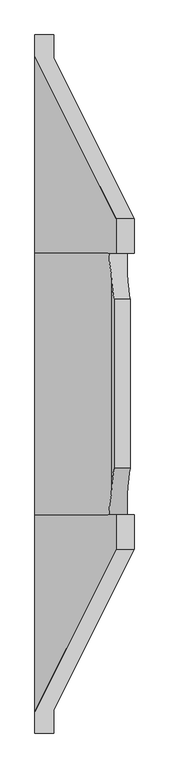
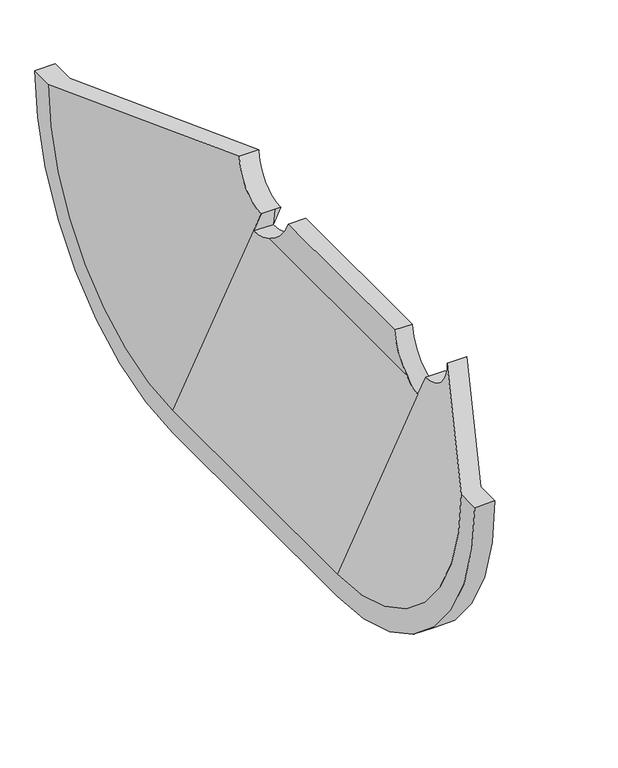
"""IFC4 building model written with IfcOpenShell, lengths in millimetres: proxy geometry, RiprapB4.sat."""

from ifc_helpers import new_model, si_unit, frame, origin, place, context, project, spatial, polyline, circle_curve, ellipse_curve, source, transform, mapped, element, save
from ifc_brep_helpers import plane_surface, cylinder_surface, revolved_surface, advanced_brep


def generic_models_2f90a7fc(model_context):
    return source(origin(), model_context, "Body", "AdvancedBrep", [
        advanced_brep(
        [(-1207.008, 4832.8128612, -914.4), (-1394.473971, 7467.6, -2788.947942), (-2416.8042503, 7467.6, -2788.947942), (-2287.5909367, 6295.1271858, -2530.5213149), (-2125.9691693, 4832.8128612, -914.4), (-1313.6943607, 7467.5999997, -1981.2), (-2012.9302793, 7467.5999997, -1981.2), (-2287.5909367, -6295.1271858, -2530.5213149), (-2416.8042503, -7467.6, -2788.947942), (-1394.473971, -7467.6, -2788.947942), (-1207.008, -4832.8128612, -914.4), (-2125.9691693, -4832.8128612, -914.4), (-2012.9302793, -7467.5999997, -1981.2), (-1313.6943607, -7467.5999997, -1981.2), (-6662.928, 7467.6, -11281.1954414), (-6662.928, -7467.6, -11281.1954414), (-990.6, 7467.6, -1981.2), (-990.6, 9448.8, 0.0), (-2012.9302793, 9448.8, 0.0), (-6662.928, 18748.7954414, 0.0), (-5596.128, 7467.6, -12500.3954414), (-6662.928, 7467.6, -12500.3954414), (-6662.928, 19967.9954414, 0.0), (-5596.128, 19967.9954414, 0.0), (-5596.128, 7467.6, -11192.256), (-5596.128, 18659.856, 0.0), (-6662.928, -7467.6, -12500.3954414), (-5596.128, -7467.6, -12500.3954414), (-5596.128, -19967.9954414, 0.0), (-6662.928, -19967.9954414, 0.0), (-6662.928, -18748.7954414, 0.0), (-2012.9302793, -9448.8, 0.0), (-990.6, -7467.6, -1981.2), (-990.6, -9448.8, 0.0), (-5596.128, -7467.6, -11192.256), (-5596.128, -18659.856, 0.0)],
        [
            (0, 1, ellipse_curve(frame((-1115.562548, 7467.5999991, -3e-07), z_axis=(0.9950366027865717, 0.0, -0.09950959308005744), x_axis=(-0.09950959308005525, 0.0, -0.9950366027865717)), 2802.8596474, 2788.9479417)),
            (1, 2),
            (2, 3, ellipse_curve(frame((-1022.3302795, 7467.5999991, -3e-07), z_axis=(-0.8944271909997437, 0.0, 0.4472135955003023), x_axis=(-0.4472135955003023, 0.0, -0.8944271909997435)), 3118.1385916, 2788.9479417)),
            (3, 4, ellipse_curve(frame((-2034.5237173, 7467.5999991, -3e-07), z_axis=(-0.9950366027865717, 0.0, 0.09950959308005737), x_axis=(-0.09950959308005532, 0.0, -0.9950366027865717)), 2802.8596474, 2788.9479417)),
            (4, 0),
            (1, 5),
            (5, 6),
            (6, 2),
            (7, 8, ellipse_curve(frame((-1022.3302795, -7467.5999991, -3e-07), z_axis=(-0.8944271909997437, 0.0, 0.4472135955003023), x_axis=(-0.4472135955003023, 0.0, -0.8944271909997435)), 3118.1385916, 2788.9479417)),
            (8, 9),
            (9, 10, ellipse_curve(frame((-1115.562548, -7467.5999991, -3e-07), z_axis=(0.9950366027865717, 0.0, -0.09950959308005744), x_axis=(-0.09950959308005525, 0.0, -0.9950366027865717)), 2802.8596474, 2788.9479417)),
            (10, 11),
            (11, 7, ellipse_curve(frame((-2034.5237173, -7467.5999991, -3e-07), z_axis=(-0.9950366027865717, 0.0, 0.09950959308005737), x_axis=(-0.09950959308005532, 0.0, -0.9950366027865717)), 2802.8596474, 2788.9479417)),
            (8, 12),
            (12, 13),
            (13, 9),
            (2, 14),
            (14, 15),
            (15, 8),
            (7, 3),
            (11, 4),
            (10, 0),
            (5, 16),
            (16, 17, circle_curve(frame((-990.6, 7467.6, 0.0), z_axis=(1.0, 0.0, 0.0), x_axis=(0.0, 0.0, -1.0)), 1981.2)),
            (17, 18),
            (18, 6, circle_curve(frame((-2012.9302793, 7467.6, 0.0), z_axis=(-1.0, 0.0, 0.0), x_axis=(0.0, 0.0, -1.0)), 1981.2)),
            (18, 19),
            (19, 14, circle_curve(frame((-6662.928, 7467.6, 0.0), z_axis=(-1.0, 0.0, 0.0), x_axis=(0.0, 0.0, -1.0)), 11281.1954414)),
            (20, 21),
            (21, 22, circle_curve(frame((-6662.928, 7467.6, 0.0), z_axis=(1.0, 0.0, 0.0), x_axis=(0.0, 0.0, -1.0)), 12500.3954414)),
            (22, 23),
            (23, 20, circle_curve(frame((-5596.128, 7467.6, 0.0), z_axis=(-1.0, 0.0, 0.0), x_axis=(0.0, 0.0, -1.0)), 12500.3954414)),
            (16, 1),
            (1, 24),
            (24, 25, circle_curve(frame((-5596.128, 7467.6, 0.0), z_axis=(1.0, 0.0, 0.0), x_axis=(0.0, 0.0, -1.0)), 11192.256)),
            (25, 17),
            (25, 23),
            (22, 19),
            (26, 27),
            (27, 28, circle_curve(frame((-5596.128, -7467.6, 0.0), z_axis=(-1.0, 0.0, 0.0), x_axis=(0.0, 0.0, -1.0)), 12500.3954414)),
            (28, 29),
            (29, 26, circle_curve(frame((-6662.928, -7467.6, 0.0), z_axis=(1.0, 0.0, 0.0), x_axis=(0.0, 0.0, -1.0)), 12500.3954414)),
            (15, 30, circle_curve(frame((-6662.928, -7467.6, 0.0), z_axis=(-1.0, 0.0, 0.0), x_axis=(0.0, 0.0, -1.0)), 11281.1954414)),
            (30, 31),
            (31, 12, circle_curve(frame((-2012.9302793, -7467.6, 0.0), z_axis=(1.0, 0.0, 0.0), x_axis=(0.0, 0.0, -1.0)), 1981.2)),
            (32, 13),
            (31, 33),
            (33, 32, circle_curve(frame((-990.6, -7467.6, 0.0), z_axis=(1.0, 0.0, 0.0), x_axis=(0.0, 0.0, -1.0)), 1981.2)),
            (34, 9),
            (9, 32),
            (33, 35),
            (35, 34, circle_curve(frame((-5596.128, -7467.6, 0.0), z_axis=(1.0, 0.0, 0.0), x_axis=(0.0, 0.0, -1.0)), 11192.256)),
            (30, 29),
            (28, 35),
            (26, 21),
            (20, 27),
            (24, 34),
            (1, 9),
        ],
        [
            revolved_surface(polyline([(-2416.804250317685, 4678.652057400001, -1.1854042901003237e-06), (372.14369131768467, 4678.652057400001, -1.1854042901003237e-06)]), (0.0, 7467.5999991, -3e-07), (-1.0, 0.0, 0.0)),
            plane_surface(frame((0.0, 7467.5999991, -3e-07), z_axis=(0.0, -1.0, -3.1746898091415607e-10), x_axis=(0.0, 3.1746898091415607e-10, -1.0))),
            revolved_surface(polyline([(-2416.804250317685, -7467.599999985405, -2788.947942), (372.14369131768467, -7467.599999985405, -2788.947942)]), (0.0, -7467.5999991, -3e-07), (-1.0, 0.0, 0.0)),
            plane_surface(frame((0.0, -7467.6, -2788.947942), z_axis=(0.0, 1.0, -3.1746898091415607e-10), x_axis=(0.0, 3.1746898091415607e-10, 1.0))),
            plane_surface(frame((-6662.928, 0.0, -11281.1954414), z_axis=(-0.8944271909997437, 0.0, 0.4472135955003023), x_axis=(0.4472135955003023, 0.0, 0.8944271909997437))),
            plane_surface(frame((-2287.5909367, 0.0, -2530.5213149), z_axis=(-0.9950366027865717, 0.0, 0.09950959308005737), x_axis=(0.09950959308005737, 0.0, 0.9950366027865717))),
            plane_surface(frame((-2125.9691693, 0.0, -914.4), z_axis=(0.0, 0.0, 1.0), x_axis=(1.0, 0.0, 0.0))),
            revolved_surface(polyline([(-990.6, 7467.6, -1981.2), (-2012.9302793, 7467.6, -1981.2)]), (-1501.7651397, 7467.6, 0.0), (1.0, 0.0, 0.0)),
            revolved_surface(polyline([(-6662.928, 7467.6, -11281.1954414), (-2012.9302793, 7467.6, -1981.1999999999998)]), (-1022.3302793, 7467.6, 0.0), (-1.0, 0.0, 0.0)),
            cylinder_surface(frame((-6129.528, 7467.6, 0.0), z_axis=(1.0, 0.0, 0.0), x_axis=(0.0, 0.0, -1.0)), 12500.3954414),
            revolved_surface(polyline([(-990.6, 7467.6, -1981.2), (-5596.128, 7467.6, -11192.256)]), (0.0, 7467.6, 0.0), (-1.0, 0.0, 0.0)),
            plane_surface(frame((-3826.764, 14708.3977207, 0.0), z_axis=(0.0, 0.0, 1.0), x_axis=(0.0, -1.0, 0.0))),
            plane_surface(frame((-3826.764, 7467.6, -7240.7977207), z_axis=(0.0, -1.0, 0.0), x_axis=(0.0, 0.0, 1.0))),
            cylinder_surface(frame((-6129.528, -7467.6, 0.0), z_axis=(-1.0, 0.0, 0.0), x_axis=(0.0, 0.0, -1.0)), 12500.3954414),
            revolved_surface(polyline([(-6662.928, -7467.6, -11281.1954414), (-2012.9302793, -7467.6, -1981.1999999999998)]), (-1022.3302793, -7467.6, 0.0), (-1.0, 0.0, 0.0)),
            revolved_surface(polyline([(-2012.9302793, -7467.6, -1981.2), (-990.6, -7467.6, -1981.2)]), (-1501.7651397, -7467.6, 0.0), (-1.0, 0.0, 0.0)),
            revolved_surface(polyline([(-990.6, -7467.6, -1981.2), (-5596.128, -7467.6, -11192.256)]), (0.0, -7467.6, 0.0), (-1.0, 0.0, 0.0)),
            plane_surface(frame((-3826.764, -14708.3977207, 0.0), z_axis=(0.0, 0.0, 1.0), x_axis=(0.0, -1.0, 0.0))),
            plane_surface(frame((-3826.764, -7467.6, -7240.7977207), z_axis=(0.0, 1.0, 0.0), x_axis=(0.0, 0.0, -1.0))),
            plane_surface(frame((-5596.128, 0.0, -12500.3954414), z_axis=(0.0, 0.0, -1.0), x_axis=(-1.0, 0.0, 0.0))),
            plane_surface(frame((-5596.128, 0.0, -11192.256), z_axis=(1.0, 0.0, 0.0), x_axis=(0.0, 0.0, -1.0))),
            plane_surface(frame((-1394.473971, 0.0, -2788.947942), z_axis=(0.8944271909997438, 0.0, -0.4472135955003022), x_axis=(-0.4472135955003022, 0.0, -0.8944271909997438))),
            plane_surface(frame((-1207.008, 0.0, -914.4), z_axis=(0.9950366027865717, 0.0, -0.09950959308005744), x_axis=(-0.09950959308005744, 0.0, -0.9950366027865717))),
            plane_surface(frame((-6662.928, 0.0, -12500.3954414), z_axis=(-1.0, 0.0, 0.0), x_axis=(0.0, 0.0, 1.0))),
        ],
        [
            (0, [[1, 2, 3, 4, 5]]),
            (1, [[6, 7, 8, -2]]),
            (2, [[9, 10, 11, 12, 13]]),
            (3, [[14, 15, 16, -10]]),
            (4, [[-3, 17, 18, 19, -9, 20]]),
            (5, [[-4, -20, -13, 21]]),
            (6, [[-5, -21, -12, 22]]),
            (7, [[-7, 23, 24, 25, 26]]),
            (8, [[-17, -8, -26, 27, 28]]),
            (9, [[29, 30, 31, 32]]),
            (10, [[33, 34, 35, 36, -24]]),
            (11, [[-36, 37, -31, 38, -27, -25]]),
            (12, [[-6, -33, -23]]),
            (13, [[39, 40, 41, 42]]),
            (14, [[-14, -19, 43, 44, 45]]),
            (15, [[46, -15, -45, 47, 48]]),
            (16, [[49, 50, -48, 51, 52]]),
            (17, [[-51, -47, -44, 53, -41, 54]]),
            (18, [[-16, -46, -50]]),
            (19, [[55, -29, 56, -39]]),
            (20, [[-56, -32, -37, -35, 57, -52, -54, -40]]),
            (21, [[-57, -34, 58, -49]]),
            (22, [[-1, -22, -11, -58]]),
            (23, [[-18, -28, -38, -30, -55, -42, -53, -43]]),
        ],
    ),
    ])


if __name__ == "__main__":
    model = new_model("IFC4")
    model_context = context("Model", 3, world=origin())
    ifc_project = project(units=[si_unit("LENGTHUNIT", "METRE", prefix="MILLI")], contexts=[model_context])
    site = spatial("IfcSite", under=ifc_project)
    building = spatial("IfcBuilding", under=site)
    placement = place(None, origin())
    generic_models_shape = generic_models_2f90a7fc(model_context)
    element("IfcBuildingElementProxy", 1, Name="RiprapB4.sat", ObjectType="RiprapB4.sat", at=placement, inside=building, context=model_context, shape_type="MappedRepresentation", body=[
        mapped(generic_models_shape, transform((0.0, 0.0, 0.0), x_axis=(1.0, 0.0, 0.0), y_axis=(0.0, 1.0, 0.0), z_axis=(0.0, 0.0, 1.0))),
    ])
    save(model, "model.ifc")
